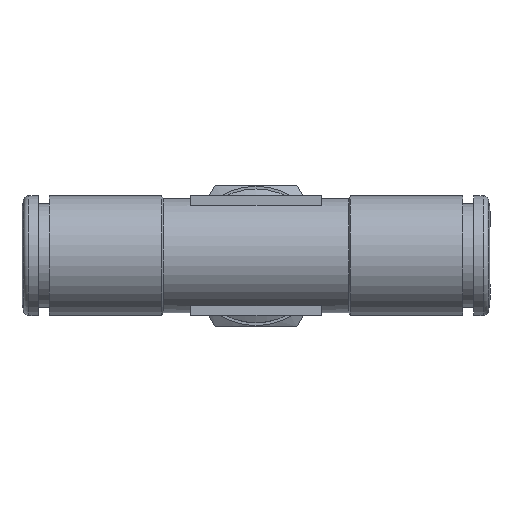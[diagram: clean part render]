
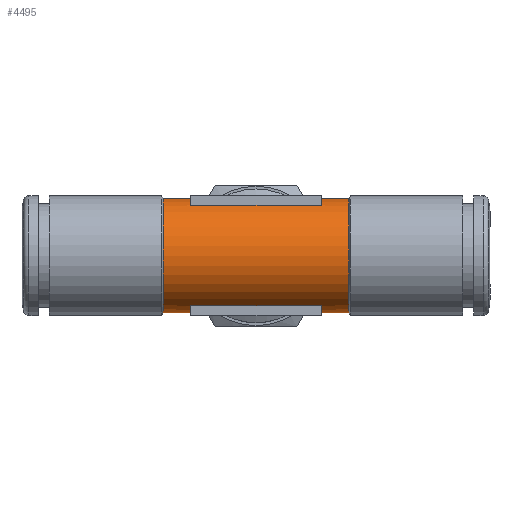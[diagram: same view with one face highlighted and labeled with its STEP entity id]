
A CAD part, top view. The second image highlights one B-rep face of the part: STEP entity #4495.
In plain terms, the highlighted cylindrical face has radius 5.25 mm (diameter 10.5 mm), a full revolution.
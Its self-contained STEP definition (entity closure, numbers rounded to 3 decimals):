
#1529=ELLIPSE('',#4288,7.425,5.25);
#1530=ELLIPSE('',#4291,7.425,5.25);
#1531=VECTOR('',#2732,1.);
#1532=VECTOR('',#2735,1.);
#1533=VECTOR('',#2738,1.);
#1534=VECTOR('',#2741,1.);
#1535=VECTOR('',#2744,1.);
#1536=VECTOR('',#2747,1.);
#1579=LINE('',#3941,#1531);
#1580=LINE('',#3945,#1532);
#1581=LINE('',#3949,#1533);
#1582=LINE('',#3953,#1534);
#1583=LINE('',#3957,#1535);
#1584=LINE('',#3961,#1536);
#1731=ORIENTED_EDGE('',*,*,#2206,.F.);
#1732=ORIENTED_EDGE('',*,*,#2207,.T.);
#1733=ORIENTED_EDGE('',*,*,#2208,.F.);
#1734=ORIENTED_EDGE('',*,*,#2209,.F.);
#1735=ORIENTED_EDGE('',*,*,#2210,.F.);
#1736=ORIENTED_EDGE('',*,*,#2211,.F.);
#1737=ORIENTED_EDGE('',*,*,#2212,.F.);
#1738=ORIENTED_EDGE('',*,*,#2213,.T.);
#1739=ORIENTED_EDGE('',*,*,#2214,.F.);
#1740=ORIENTED_EDGE('',*,*,#2215,.F.);
#1741=ORIENTED_EDGE('',*,*,#2216,.F.);
#1742=ORIENTED_EDGE('',*,*,#2217,.F.);
#1743=ORIENTED_EDGE('',*,*,#2218,.F.);
#1744=ORIENTED_EDGE('',*,*,#2219,.T.);
#2004=CIRCLE('',#4283,5.25);
#2005=CIRCLE('',#4285,5.25);
#2006=CIRCLE('',#4286,5.25);
#2007=CIRCLE('',#4287,5.25);
#2008=CIRCLE('',#4289,5.25);
#2009=CIRCLE('',#4290,5.25);
#2087=VERTEX_POINT('',#3934);
#2088=VERTEX_POINT('',#3937);
#2089=VERTEX_POINT('',#3939);
#2090=VERTEX_POINT('',#3940);
#2091=VERTEX_POINT('',#3942);
#2092=VERTEX_POINT('',#3944);
#2093=VERTEX_POINT('',#3946);
#2094=VERTEX_POINT('',#3948);
#2095=VERTEX_POINT('',#3950);
#2096=VERTEX_POINT('',#3952);
#2097=VERTEX_POINT('',#3954);
#2098=VERTEX_POINT('',#3956);
#2099=VERTEX_POINT('',#3958);
#2100=VERTEX_POINT('',#3960);
#2206=EDGE_CURVE('',#2087,#2087,#2004,.T.);
#2207=EDGE_CURVE('',#2088,#2088,#2005,.T.);
#2208=EDGE_CURVE('',#2089,#2090,#1579,.T.);
#2209=EDGE_CURVE('',#2091,#2089,#2006,.T.);
#2210=EDGE_CURVE('',#2092,#2091,#1580,.T.);
#2211=EDGE_CURVE('',#2093,#2092,#2007,.T.);
#2212=EDGE_CURVE('',#2094,#2093,#1581,.T.);
#2213=EDGE_CURVE('',#2094,#2095,#1529,.T.);
#2214=EDGE_CURVE('',#2096,#2095,#1582,.T.);
#2215=EDGE_CURVE('',#2097,#2096,#2008,.T.);
#2216=EDGE_CURVE('',#2098,#2097,#1583,.T.);
#2217=EDGE_CURVE('',#2099,#2098,#2009,.T.);
#2218=EDGE_CURVE('',#2100,#2099,#1584,.T.);
#2219=EDGE_CURVE('',#2100,#2090,#1530,.T.);
#2359=EDGE_LOOP('',(#1731));
#2360=EDGE_LOOP('',(#1732));
#2361=EDGE_LOOP('',(#1733,#1734,#1735,#1736,#1737,#1738,#1739,#1740,#1741,
#1742,#1743,#1744));
#2531=FACE_BOUND('',#2359,.T.);
#2532=FACE_BOUND('',#2360,.T.);
#2533=FACE_BOUND('',#2361,.T.);
#2726=DIRECTION('',(1.,0.,0.));
#2727=DIRECTION('',(0.,5.25,0.));
#2728=DIRECTION('',(-1.,0.,0.));
#2729=DIRECTION('',(0.,1.,0.));
#2730=DIRECTION('',(1.,0.,0.));
#2731=DIRECTION('',(0.,5.25,0.));
#2732=DIRECTION('',(3.5,0.,0.));
#2733=DIRECTION('',(1.,0.,0.));
#2734=DIRECTION('',(0.,2.5,4.617));
#2735=DIRECTION('',(-12.,0.,0.));
#2736=DIRECTION('',(-1.,0.,0.));
#2737=DIRECTION('',(0.,-2.5,4.617));
#2738=DIRECTION('',(3.5,0.,0.));
#2739=DIRECTION('',(0.707,0.707,0.));
#2740=DIRECTION('',(0.707,-0.707,0.));
#2741=DIRECTION('',(-3.5,0.,0.));
#2742=DIRECTION('',(-1.,0.,0.));
#2743=DIRECTION('',(0.,2.5,-4.617));
#2744=DIRECTION('',(12.,0.,0.));
#2745=DIRECTION('',(1.,0.,0.));
#2746=DIRECTION('',(0.,-2.5,-4.617));
#2747=DIRECTION('',(-3.5,0.,0.));
#2748=DIRECTION('',(-0.707,0.707,0.));
#2749=DIRECTION('',(-0.707,-0.707,0.));
#3934=CARTESIAN_POINT('',(33.945,42.731,0.));
#3935=CARTESIAN_POINT('',(33.945,37.481,0.));
#3936=CARTESIAN_POINT('',(33.945,37.481,0.));
#3937=CARTESIAN_POINT('',(16.945,42.731,0.));
#3938=CARTESIAN_POINT('',(16.945,37.481,0.));
#3939=CARTESIAN_POINT('',(19.445,34.981,4.617));
#3940=CARTESIAN_POINT('',(22.945,34.981,4.617));
#3941=CARTESIAN_POINT('',(19.445,34.981,4.617));
#3942=CARTESIAN_POINT('',(19.445,39.981,4.617));
#3943=CARTESIAN_POINT('',(19.445,37.481,0.));
#3944=CARTESIAN_POINT('',(31.445,39.981,4.617));
#3945=CARTESIAN_POINT('',(31.445,39.981,4.617));
#3946=CARTESIAN_POINT('',(31.445,34.981,4.617));
#3947=CARTESIAN_POINT('',(31.445,37.481,0.));
#3948=CARTESIAN_POINT('',(27.945,34.981,4.617));
#3949=CARTESIAN_POINT('',(27.945,34.981,4.617));
#3950=CARTESIAN_POINT('',(27.945,34.981,-4.617));
#3951=CARTESIAN_POINT('',(25.445,37.481,0.));
#3952=CARTESIAN_POINT('',(31.445,34.981,-4.617));
#3953=CARTESIAN_POINT('',(31.445,34.981,-4.617));
#3954=CARTESIAN_POINT('',(31.445,39.981,-4.617));
#3955=CARTESIAN_POINT('',(31.445,37.481,0.));
#3956=CARTESIAN_POINT('',(19.445,39.981,-4.617));
#3957=CARTESIAN_POINT('',(19.445,39.981,-4.617));
#3958=CARTESIAN_POINT('',(19.445,34.981,-4.617));
#3959=CARTESIAN_POINT('',(19.445,37.481,0.));
#3960=CARTESIAN_POINT('',(22.945,34.981,-4.617));
#3961=CARTESIAN_POINT('',(22.945,34.981,-4.617));
#3962=CARTESIAN_POINT('',(25.445,37.481,0.));
#4283=AXIS2_PLACEMENT_3D('',#3935,#2726,#2727);
#4284=AXIS2_PLACEMENT_3D('',#3936,#2728,#2729);
#4285=AXIS2_PLACEMENT_3D('',#3938,#2730,#2731);
#4286=AXIS2_PLACEMENT_3D('',#3943,#2733,#2734);
#4287=AXIS2_PLACEMENT_3D('',#3947,#2736,#2737);
#4288=AXIS2_PLACEMENT_3D('',#3951,#2739,#2740);
#4289=AXIS2_PLACEMENT_3D('',#3955,#2742,#2743);
#4290=AXIS2_PLACEMENT_3D('',#3959,#2745,#2746);
#4291=AXIS2_PLACEMENT_3D('',#3962,#2748,#2749);
#4462=CYLINDRICAL_SURFACE('',#4284,5.25);
#4495=ADVANCED_FACE('',(#2531,#2532,#2533),#4462,.T.);
